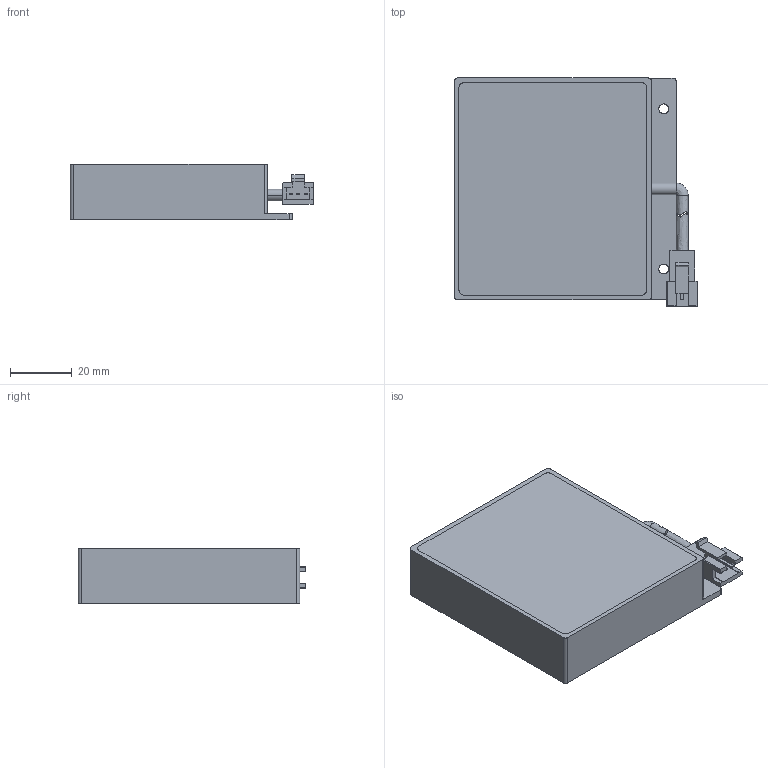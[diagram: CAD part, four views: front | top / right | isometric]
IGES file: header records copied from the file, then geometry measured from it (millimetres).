
Start section: SolidWorks IGES file using analytic representation for surfaces
Global section: file name: E:\SynologyDrive\新款图纸\标准产品\背光\F6060\ED\F6060.IGS; native system: SolidWorks 2021; preprocessor: SolidWorks 2021; author: Administrator; date: 210717.103104; units: millimetre
Bounding box: 79 x 74 x 18 mm (x, y, z)
Surface area: 29619.7 mm2 (no closed solid volume)
Topology: 0 solids, 0 shells, 124 faces, 1200 edges, 1200 vertices
Faces by surface type: bspline 88, revolution 36
